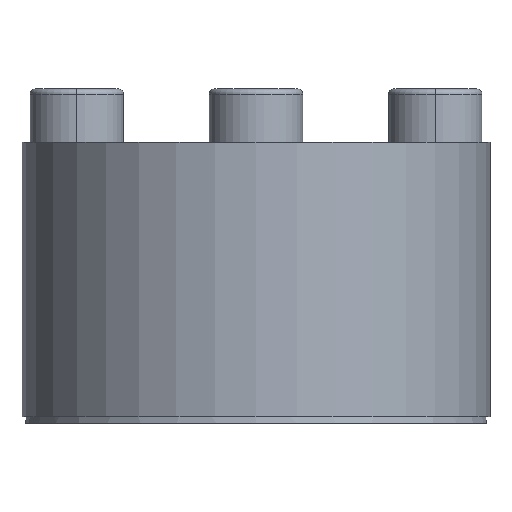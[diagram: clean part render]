
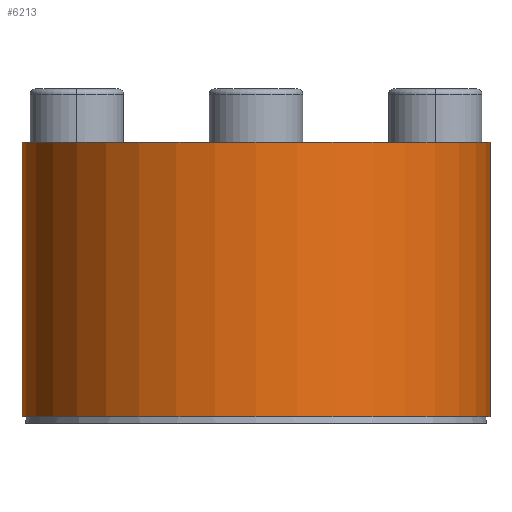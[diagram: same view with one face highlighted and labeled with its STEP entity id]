
A CAD part, front view. The second image highlights one B-rep face of the part: STEP entity #6213.
In plain terms, the highlighted cylindrical face has radius 17.5 mm (diameter 35 mm), a partial arc.
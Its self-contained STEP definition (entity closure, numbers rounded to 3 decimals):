
#72 = EDGE_CURVE ( 'NONE', #3295, #5749, #4355, .T. ) ;
#143 = CARTESIAN_POINT ( 'NONE',  ( 17.5, 0., 0.488 ) ) ;
#930 = CARTESIAN_POINT ( 'NONE',  ( 0., 0., 20.988 ) ) ;
#946 = DIRECTION ( 'NONE',  ( 0., 0., 1. ) ) ;
#1133 = CARTESIAN_POINT ( 'NONE',  ( -17.5, 0., 0.488 ) ) ;
#1397 = VECTOR ( 'NONE', #1433, 1000. ) ;
#1433 = DIRECTION ( 'NONE',  ( 0., 0., 1. ) ) ;
#1488 = DIRECTION ( 'NONE',  ( -1., 0., 0. ) ) ;
#1528 = DIRECTION ( 'NONE',  ( 1., 0., 0. ) ) ;
#1581 = VECTOR ( 'NONE', #6769, 1000. ) ;
#1872 = CYLINDRICAL_SURFACE ( 'NONE', #5778, 17.5 ) ;
#2071 = CARTESIAN_POINT ( 'NONE',  ( 0., 0., 0.488 ) ) ;
#2087 = CIRCLE ( 'NONE', #7047, 17.5 ) ;
#2281 = AXIS2_PLACEMENT_3D ( 'NONE', #930, #4804, #1488 ) ;
#2321 = CARTESIAN_POINT ( 'NONE',  ( 17.5, 0., 20.988 ) ) ;
#2450 = CIRCLE ( 'NONE', #2281, 17.5 ) ;
#2935 = CARTESIAN_POINT ( 'NONE',  ( 17.5, 0., 0.488 ) ) ;
#3043 = LINE ( 'NONE', #2935, #1581 ) ;
#3055 = ORIENTED_EDGE ( 'NONE', *, *, #4689, .F. ) ;
#3295 = VERTEX_POINT ( 'NONE', #4401 ) ;
#3309 = DIRECTION ( 'NONE',  ( 0., 0., -1. ) ) ;
#3586 = EDGE_CURVE ( 'NONE', #4791, #5749, #2450, .T. ) ;
#3962 = EDGE_CURVE ( 'NONE', #4869, #4791, #3043, .T. ) ;
#4299 = EDGE_LOOP ( 'NONE', ( #4703, #3055, #7083, #5500 ) ) ;
#4355 = LINE ( 'NONE', #1133, #1397 ) ;
#4401 = CARTESIAN_POINT ( 'NONE',  ( -17.5, 0., 0.488 ) ) ;
#4689 = EDGE_CURVE ( 'NONE', #4869, #3295, #2087, .T. ) ;
#4703 = ORIENTED_EDGE ( 'NONE', *, *, #72, .F. ) ;
#4791 = VERTEX_POINT ( 'NONE', #2321 ) ;
#4804 = DIRECTION ( 'NONE',  ( 0., 0., -1. ) ) ;
#4869 = VERTEX_POINT ( 'NONE', #143 ) ;
#5366 = FACE_OUTER_BOUND ( 'NONE', #4299, .T. ) ;
#5500 = ORIENTED_EDGE ( 'NONE', *, *, #3586, .T. ) ;
#5749 = VERTEX_POINT ( 'NONE', #6535 ) ;
#5778 = AXIS2_PLACEMENT_3D ( 'NONE', #2071, #946, #1528 ) ;
#6213 = ADVANCED_FACE ( 'NONE', ( #5366 ), #1872, .T. ) ;
#6535 = CARTESIAN_POINT ( 'NONE',  ( -17.5, 0., 20.988 ) ) ;
#6620 = CARTESIAN_POINT ( 'NONE',  ( 0., 0., 0.488 ) ) ;
#6769 = DIRECTION ( 'NONE',  ( 0., 0., 1. ) ) ;
#7047 = AXIS2_PLACEMENT_3D ( 'NONE', #6620, #3309, #7130 ) ;
#7083 = ORIENTED_EDGE ( 'NONE', *, *, #3962, .T. ) ;
#7130 = DIRECTION ( 'NONE',  ( -1., 0., 0. ) ) ;
